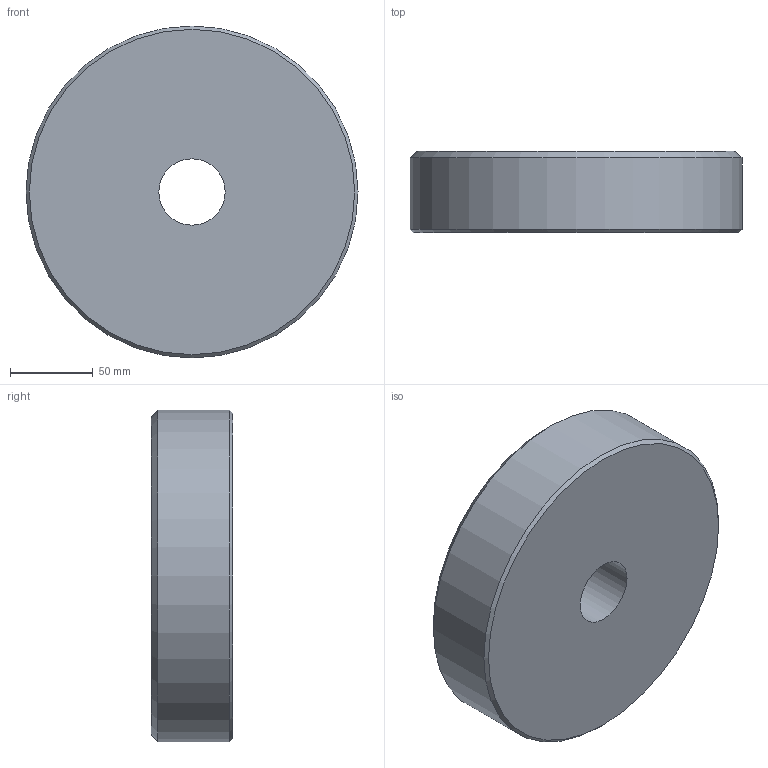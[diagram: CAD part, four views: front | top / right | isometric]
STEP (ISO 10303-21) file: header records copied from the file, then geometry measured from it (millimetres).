
FILE_DESCRIPTION(/* description */ (''),/* implementation_level */ '2;1');
FILE_NAME(/* name */ 'C:\Users\stagistaCAD\Desktop\00002260.stp',/* time_stamp */ '2018-06-15T16:07:45+02:00',/* author */ ('stagistacad'),/* organization */ (''),/* preprocessor_version */ 'ST-DEVELOPER v15.6',/* originating_system */ 'Autodesk Inventor 2015',/* authorisation */ '');
FILE_SCHEMA (('AUTOMOTIVE_DESIGN { 1 0 10303 214 3 1 1 }'));
Length unit declared in the file: millimetre
Products named in the file (1): 00002260
Bounding box: 200 x 49 x 200 mm (x, y, z)
Volume: 1471597.4 mm3; surface area: 95029.3 mm2
Topology: 1 solids, 1 shells, 6 faces, 10 edges, 6 vertices
Faces by surface type: plane 2, cylinder 2, cone 2
Full cylindrical faces by diameter (mm): 40 x1, 200 x1
Entity records: 152 total; most frequent: DIRECTION 26, CARTESIAN_POINT 19, AXIS2_PLACEMENT_3D 13, EDGE_LOOP 12, ORIENTED_EDGE 12, FACE_BOUND 6, FACE_OUTER_BOUND 6, CIRCLE 6
